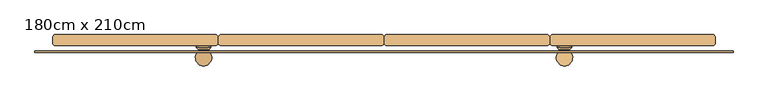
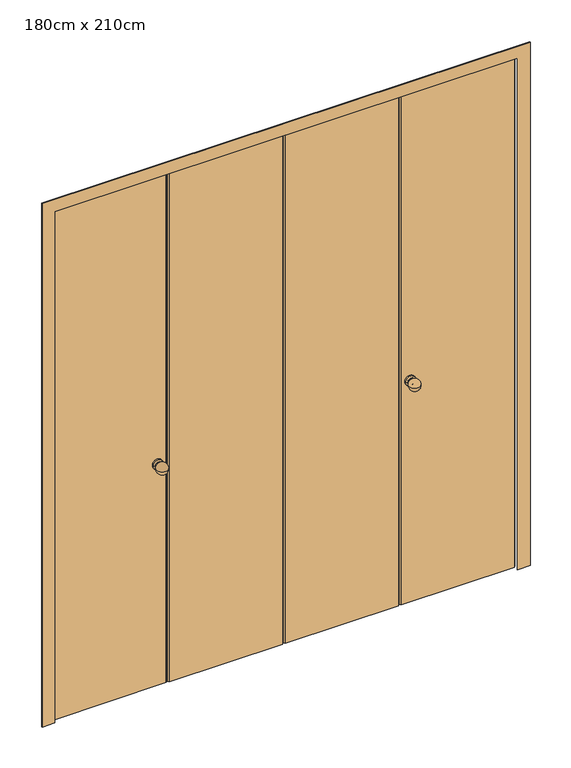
"""IFC4 building model written with IfcOpenShell, lengths in millimetres: door geometry, Placard double pliante : 180cm x 210cm."""

from ifc_helpers import new_model, si_unit, point, frame, origin, origin_with_axes, place, context, project, spatial, polyline, circle_curve, ellipse_curve, trimmed, outline, extrude, source, transform, mapped, element, save
from ifc_brep_helpers import plane_surface, cylinder_surface, revolved_surface, advanced_brep


def door_180cm_x_210cm_d4e2d69c(model_context):
    return source(origin(), model_context, "Body", "SolidModel", [
        advanced_brep(
        [(-500.0, -33.7245901, 910.0), (-500.0, -31.0, 910.0), (-480.0, -31.0, 910.0), (-480.0, -33.7245901, 910.0), (-490.0, -75.3205081, 910.0), (-510.0, -21.0, 910.0), (-490.0, -21.0, 910.0), (-470.0, -21.0, 910.0), (-510.0, -26.0, 910.0), (-470.0, -26.0, 910.0), (-505.0, -31.0, 910.0), (-475.0, -31.0, 910.0)],
        [
            (0, 1),
            (1, 2, circle_curve(frame((-490.0, -31.0, 910.0), z_axis=(0.0, -1.0, 0.0), x_axis=(1.0, 0.0, 0.0)), 10.0)),
            (2, 3),
            (3, 0, circle_curve(frame((-490.0, -33.7245901, 910.0), z_axis=(0.0, 1.0, 0.0), x_axis=(1.0, 0.0, 0.0)), 10.0)),
            (2, 1, circle_curve(frame((-490.0, -31.0, 910.0), z_axis=(0.0, -1.0, 0.0), x_axis=(1.0, 0.0, 0.0)), 10.0)),
            (0, 3, circle_curve(frame((-490.0, -33.7245901, 910.0), z_axis=(0.0, 1.0, 0.0), x_axis=(1.0, 0.0, 0.0)), 10.0)),
            (4, 0, circle_curve(frame((-490.0, -53.3205081, 910.0), z_axis=(0.0, 0.0, -1.0), x_axis=(0.0, -1.0, 0.0)), 22.0)),
            (3, 4, circle_curve(frame((-490.0, -53.3205081, 910.0), z_axis=(0.0, 0.0, -1.0), x_axis=(0.0, -1.0, 0.0)), 22.0)),
            (5, 6),
            (6, 7),
            (7, 5, circle_curve(frame((-490.0, -21.0, 910.0), z_axis=(0.0, 1.0, 0.0), x_axis=(1.0, 0.0, 0.0)), 20.0)),
            (5, 7, circle_curve(frame((-490.0, -21.0, 910.0), z_axis=(0.0, 1.0, 0.0), x_axis=(1.0, 0.0, 0.0)), 20.0)),
            (8, 5),
            (7, 9),
            (9, 8, circle_curve(frame((-490.0, -26.0, 910.0), z_axis=(0.0, 1.0, 0.0), x_axis=(1.0, 0.0, 0.0)), 20.0)),
            (8, 9, circle_curve(frame((-490.0, -26.0, 910.0), z_axis=(0.0, 1.0, 0.0), x_axis=(1.0, 0.0, 0.0)), 20.0)),
            (10, 8),
            (9, 11),
            (11, 10, circle_curve(frame((-490.0, -31.0, 910.0), z_axis=(0.0, 1.0, 0.0), x_axis=(1.0, 0.0, 0.0)), 15.0)),
            (10, 11, circle_curve(frame((-490.0, -31.0, 910.0), z_axis=(0.0, 1.0, 0.0), x_axis=(1.0, 0.0, 0.0)), 15.0)),
            (1, 10),
            (11, 2),
        ],
        [
            cylinder_surface(frame((-490.0, 568.1103609, 910.0), z_axis=(0.0, -1.0, 0.0), x_axis=(1.0, 0.0, 0.0)), 10.0),
            revolved_surface(trimmed(ellipse_curve(frame((-490.0, -53.3205081, 910.0), z_axis=(0.0, 0.0, -1.0), x_axis=(0.0, -1.0, 0.0)), 22.0, 22.0), [point((-480.0, -33.7245901, 910.0))], [point((-490.0, -75.3205081, 910.0))], True, "CARTESIAN"), (-490.0, 568.1103609, 910.0), (0.0, -1.0, 0.0)),
            plane_surface(frame((-490.0, -21.0, 910.0), z_axis=(0.0, 1.0, 0.0), x_axis=(1.0, 0.0, 0.0))),
            cylinder_surface(frame((-490.0, 568.1103609, 910.0), z_axis=(0.0, -1.0, 0.0), x_axis=(1.0, 0.0, 0.0)), 20.0),
            revolved_surface(polyline([(-470.0, -26.0, 910.0), (-475.0, -31.0, 910.0)]), (-490.0, 568.1103609, 910.0), (0.0, -1.0, 0.0)),
            plane_surface(frame((-490.0, -31.0, 910.0), z_axis=(0.0, -1.0, 0.0), x_axis=(1.0, 0.0, 0.0))),
        ],
        [
            (0, [[1, 2, 3, 4]]),
            (0, [[-3, 5, -1, 6]]),
            (1, [[7, -4, 8]]),
            (1, [[-8, -6, -7]]),
            (2, [[9, 10, 11]]),
            (2, [[-10, -9, 12]]),
            (3, [[13, -11, 14, 15]]),
            (3, [[-14, -12, -13, 16]]),
            (4, [[17, -15, 18, 19]]),
            (4, [[-18, -16, -17, 20]]),
            (5, [[21, -19, 22, -2]]),
            (5, [[-22, -20, -21, -5]]),
        ],
    ),
        advanced_brep(
        [(500.0, -33.7245901, 910.0), (480.0, -33.7245901, 910.0), (480.0, -31.0, 910.0), (500.0, -31.0, 910.0), (490.0, -75.3205081, 910.0), (510.0, -21.0, 910.0), (470.0, -21.0, 910.0), (490.0, -21.0, 910.0), (510.0, -26.0, 910.0), (470.0, -26.0, 910.0), (505.0, -31.0, 910.0), (475.0, -31.0, 910.0)],
        [
            (0, 1, circle_curve(frame((490.0, -33.7245901, 910.0), z_axis=(0.0, 1.0, 0.0), x_axis=(-1.0, 0.0, 0.0)), 10.0)),
            (1, 2),
            (2, 3, circle_curve(frame((490.0, -31.0, 910.0), z_axis=(0.0, -1.0, 0.0), x_axis=(-1.0, 0.0, 0.0)), 10.0)),
            (3, 0),
            (1, 0, circle_curve(frame((490.0, -33.7245901, 910.0), z_axis=(0.0, 1.0, 0.0), x_axis=(-1.0, 0.0, 0.0)), 10.0)),
            (3, 2, circle_curve(frame((490.0, -31.0, 910.0), z_axis=(0.0, -1.0, 0.0), x_axis=(-1.0, 0.0, 0.0)), 10.0)),
            (4, 1, circle_curve(frame((490.0, -53.3205081, 910.0), z_axis=(0.0, 0.0, -1.0), x_axis=(0.0, -1.0, 0.0)), 22.0)),
            (0, 4, circle_curve(frame((490.0, -53.3205081, 910.0), z_axis=(0.0, 0.0, -1.0), x_axis=(0.0, -1.0, 0.0)), 22.0)),
            (5, 6, circle_curve(frame((490.0, -21.0, 910.0), z_axis=(0.0, 1.0, 0.0), x_axis=(-1.0, 0.0, 0.0)), 20.0)),
            (6, 7),
            (7, 5),
            (6, 5, circle_curve(frame((490.0, -21.0, 910.0), z_axis=(0.0, 1.0, 0.0), x_axis=(-1.0, 0.0, 0.0)), 20.0)),
            (8, 9, circle_curve(frame((490.0, -26.0, 910.0), z_axis=(0.0, 1.0, 0.0), x_axis=(-1.0, 0.0, 0.0)), 20.0)),
            (9, 6),
            (5, 8),
            (9, 8, circle_curve(frame((490.0, -26.0, 910.0), z_axis=(0.0, 1.0, 0.0), x_axis=(-1.0, 0.0, 0.0)), 20.0)),
            (10, 11, circle_curve(frame((490.0, -31.0, 910.0), z_axis=(0.0, 1.0, 0.0), x_axis=(-1.0, 0.0, 0.0)), 15.0)),
            (11, 9),
            (8, 10),
            (11, 10, circle_curve(frame((490.0, -31.0, 910.0), z_axis=(0.0, 1.0, 0.0), x_axis=(-1.0, 0.0, 0.0)), 15.0)),
            (2, 11),
            (10, 3),
        ],
        [
            cylinder_surface(frame((490.0, 568.1103609, 910.0), z_axis=(0.0, -1.0, 0.0), x_axis=(-1.0, 0.0, 0.0)), 10.0),
            revolved_surface(trimmed(ellipse_curve(frame((490.0, -53.3205081, 910.0), z_axis=(0.0, 0.0, 1.0), x_axis=(0.0, -1.0, 0.0)), 22.0, 22.0), [point((480.0, -33.7245901, 910.0))], [point((490.0, -75.3205081, 910.0))], True, "CARTESIAN"), (490.0, 568.1103609, 910.0), (0.0, -1.0, 0.0)),
            plane_surface(frame((490.0, -21.0, 910.0), z_axis=(0.0, 1.0, 0.0), x_axis=(-1.0, 0.0, 0.0))),
            cylinder_surface(frame((490.0, 568.1103609, 910.0), z_axis=(0.0, -1.0, 0.0), x_axis=(-1.0, 0.0, 0.0)), 20.0),
            revolved_surface(polyline([(470.0, -26.0, 910.0), (475.0, -31.0, 910.0)]), (490.0, 568.1103609, 910.0), (0.0, -1.0, 0.0)),
            plane_surface(frame((490.0, -31.0, 910.0), z_axis=(0.0, -1.0, 0.0), x_axis=(-1.0, 0.0, 0.0))),
        ],
        [
            (0, [[1, 2, 3, 4]]),
            (0, [[5, -4, 6, -2]]),
            (1, [[7, -1, 8]]),
            (1, [[-8, -5, -7]]),
            (2, [[9, 10, 11]]),
            (2, [[12, -11, -10]]),
            (3, [[13, 14, -9, 15]]),
            (3, [[16, -15, -12, -14]]),
            (4, [[17, 18, -13, 19]]),
            (4, [[20, -19, -16, -18]]),
            (5, [[-3, 21, -17, 22]]),
            (5, [[-6, -22, -20, -21]]),
        ],
    ),
        extrude(outline(polyline([(444.9960715, -21.0), (5.0039285, -21.0), (0.0, -16.0), (0.0, 4.0), (5.0039285, 9.0), (444.9960715, 9.0), (450.0, 4.0), (450.0, -16.0), (444.9960715, -21.0)])), origin_with_axes(), (0.0, 0.0, 1.0), 2100.0),
        extrude(outline(polyline([(450.0, 4.0), (455.0039285, 9.0), (894.9960715, 9.0), (900.0, 4.0), (900.0, -16.0), (894.9960715, -21.0), (455.0039285, -21.0), (450.0, -16.0), (450.0, 4.0)])), origin_with_axes(), (0.0, 0.0, 1.0), 2100.0),
        extrude(outline(polyline([(-5.0, 9.0), (0.0, 4.0), (0.0, -16.0), (-5.0, -21.0), (-445.0, -21.0), (-450.0, -16.0), (-450.0, 4.0), (-445.0, 9.0), (-5.0, 9.0)])), origin_with_axes(), (0.0, 0.0, 1.0), 2100.0),
        extrude(outline(polyline([(-455.0, 9.0), (-450.0, 4.0), (-450.0, -16.0), (-455.0, -21.0), (-895.0, -21.0), (-900.0, -16.0), (-900.0, 4.0), (-895.0, 9.0), (-455.0, 9.0)])), origin_with_axes(), (0.0, 0.0, 1.0), 2098.0),
        extrude(outline(polyline([(0.0, -948.0), (0.0, -898.0), (2098.0, -898.0), (2098.0, 898.0), (0.0, 898.0), (0.0, 948.0), (2148.0, 948.0), (2148.0, -948.0), (0.0, -948.0)])), frame((0.0, -39.0, 0.0), z_axis=(0.0, 1.0, 0.0), x_axis=(0.0, 0.0, 1.0)), (0.0, 0.0, 1.0), 3.0),
    ])


if __name__ == "__main__":
    model = new_model("IFC4")
    model_context = context("Model", 3, world=origin())
    ifc_project = project(units=[si_unit("LENGTHUNIT", "METRE", prefix="MILLI")], contexts=[model_context])
    site = spatial("IfcSite", under=ifc_project)
    building = spatial("IfcBuilding", under=site)
    placement = place(None, origin())
    door_180cm_x_210cm_shape = door_180cm_x_210cm_d4e2d69c(model_context)
    element("IfcDoor", 1, ObjectType="Placard double pliante : 180cm x 210cm", at=placement, inside=building, context=model_context, shape_type="MappedRepresentation", body=[
        mapped(door_180cm_x_210cm_shape, transform((0.0, 0.0, 0.0), x_axis=(1.0, 0.0, 0.0), y_axis=(0.0, 1.0, 0.0), z_axis=(0.0, 0.0, 1.0))),
    ])
    save(model, "model.ifc")
